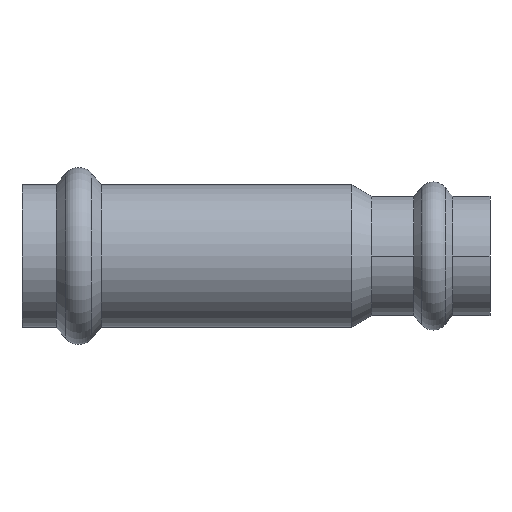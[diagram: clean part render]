
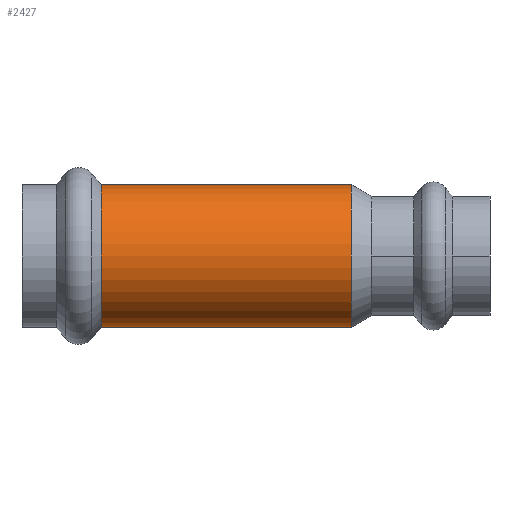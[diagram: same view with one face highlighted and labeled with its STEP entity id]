
A CAD part, front view. The second image highlights one B-rep face of the part: STEP entity #2427.
In plain terms, the highlighted cylindrical face has radius 12.6 mm (diameter 25.2 mm), a partial arc.
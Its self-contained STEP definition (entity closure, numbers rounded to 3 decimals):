
#380 = EDGE_CURVE ( 'NONE', #4401, #4202, #4085, .T. ) ;
#495 = CARTESIAN_POINT ( 'NONE',  ( 17.521, 0., -12.6 ) ) ;
#522 = EDGE_CURVE ( 'NONE', #4202, #3459, #1150, .T. ) ;
#1087 = CARTESIAN_POINT ( 'NONE',  ( -26.572, 0., 12.6 ) ) ;
#1120 = CIRCLE ( 'NONE', #1930, 12.6 ) ;
#1140 = ORIENTED_EDGE ( 'NONE', *, *, #522, .F. ) ;
#1150 = LINE ( 'NONE', #3062, #2745 ) ;
#1254 = CARTESIAN_POINT ( 'NONE',  ( 17.521, 0., 12.6 ) ) ;
#1363 = DIRECTION ( 'NONE',  ( 1., 0., 0. ) ) ;
#1427 = VERTEX_POINT ( 'NONE', #1087 ) ;
#1539 = DIRECTION ( 'NONE',  ( -1., 0., 0. ) ) ;
#1623 = DIRECTION ( 'NONE',  ( -1., 0., 0. ) ) ;
#1632 = CARTESIAN_POINT ( 'NONE',  ( 17.521, 0., 0. ) ) ;
#1831 = ORIENTED_EDGE ( 'NONE', *, *, #380, .F. ) ;
#1846 = EDGE_LOOP ( 'NONE', ( #1140, #1831, #3512, #2221 ) ) ;
#1930 = AXIS2_PLACEMENT_3D ( 'NONE', #3415, #1363, #3753 ) ;
#2012 = CARTESIAN_POINT ( 'NONE',  ( -26.572, 0., -12.6 ) ) ;
#2014 = DIRECTION ( 'NONE',  ( 0., 0., 1. ) ) ;
#2221 = ORIENTED_EDGE ( 'NONE', *, *, #2465, .T. ) ;
#2283 = LINE ( 'NONE', #3688, #2392 ) ;
#2392 = VECTOR ( 'NONE', #1623, 1000. ) ;
#2398 = AXIS2_PLACEMENT_3D ( 'NONE', #3042, #3739, #2014 ) ;
#2427 = ADVANCED_FACE ( 'NONE', ( #3961 ), #3854, .T. ) ;
#2465 = EDGE_CURVE ( 'NONE', #1427, #3459, #1120, .T. ) ;
#2745 = VECTOR ( 'NONE', #1539, 1000. ) ;
#3011 = DIRECTION ( 'NONE',  ( 1., 0., 0. ) ) ;
#3042 = CARTESIAN_POINT ( 'NONE',  ( -58.611, 0., 0. ) ) ;
#3062 = CARTESIAN_POINT ( 'NONE',  ( -58.611, 0., -12.6 ) ) ;
#3363 = DIRECTION ( 'NONE',  ( 0., 0., 1. ) ) ;
#3415 = CARTESIAN_POINT ( 'NONE',  ( -26.572, 0., 0. ) ) ;
#3459 = VERTEX_POINT ( 'NONE', #2012 ) ;
#3512 = ORIENTED_EDGE ( 'NONE', *, *, #3537, .T. ) ;
#3537 = EDGE_CURVE ( 'NONE', #4401, #1427, #2283, .T. ) ;
#3601 = AXIS2_PLACEMENT_3D ( 'NONE', #1632, #3011, #3363 ) ;
#3688 = CARTESIAN_POINT ( 'NONE',  ( -58.611, 0., 12.6 ) ) ;
#3739 = DIRECTION ( 'NONE',  ( -1., 0., 0. ) ) ;
#3753 = DIRECTION ( 'NONE',  ( 0., 0., 1. ) ) ;
#3854 = CYLINDRICAL_SURFACE ( 'NONE', #2398, 12.6 ) ;
#3961 = FACE_OUTER_BOUND ( 'NONE', #1846, .T. ) ;
#4085 = CIRCLE ( 'NONE', #3601, 12.6 ) ;
#4202 = VERTEX_POINT ( 'NONE', #495 ) ;
#4401 = VERTEX_POINT ( 'NONE', #1254 ) ;
